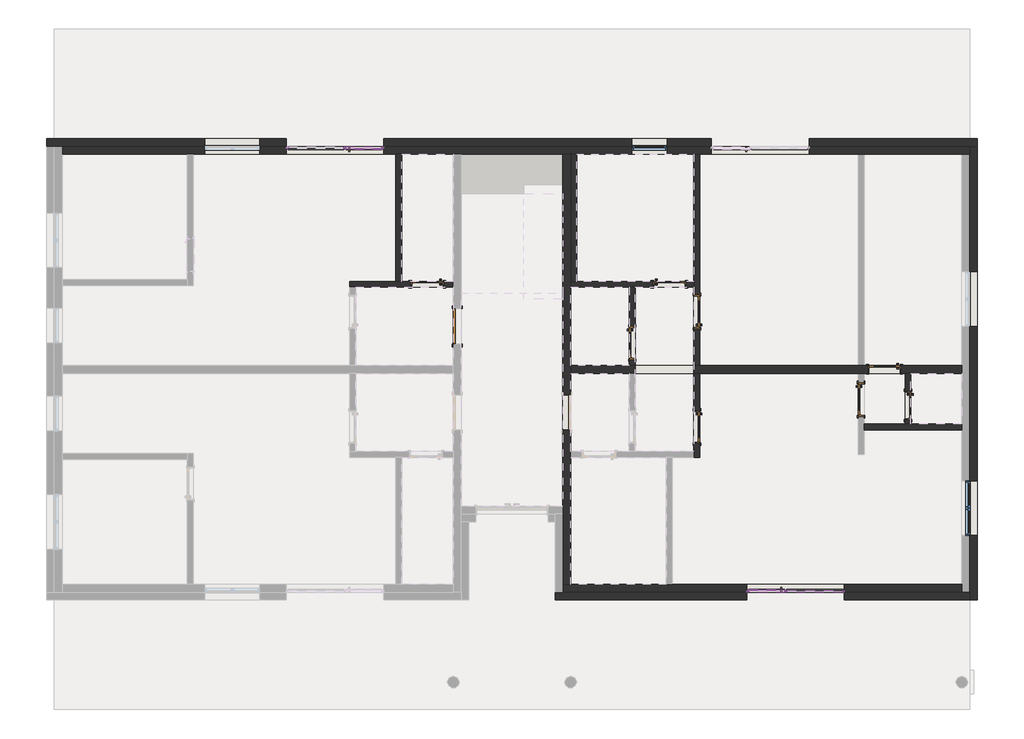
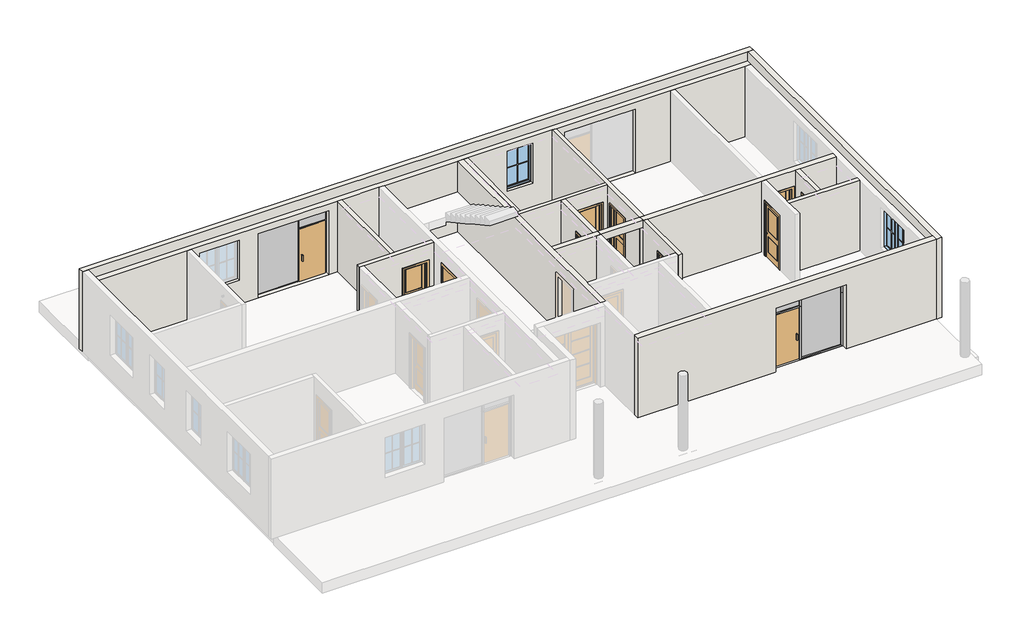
# One storey, part 2 of 3: 18 members, 18 walls, 11 doors, 4 plates, 2 windows.
"""IFC4 building model written with IfcOpenShell, lengths in millimetres."""

from ifc_helpers import new_model, si_unit, frame, origin, place, context, project, spatial, polyline, outline, extrude, faceted_brep, transform, mapped, element, save
from components import door_ff0059c9, door_700_x_2000mm_35cf3881, door_800_x_2000mm_7a4eaae7, door_800_x_2000mm_50fb24a1, door_800_x_2000mm_7f741745, door_900_x_2100mm_4fa88ec2, member_50x50_mm_0b25df5f, member_50x50_mm_3bf2a5da, member_50x50_mm_d57dae31, member_50x50_mm_7f53e2b4, member_50x50_mm_58209b6d, member_50x50_mm_0f4eb3cd, member_50x50_mm_521fa47b, plate_240b6e4f, plate_5e06e8b0, window_1400_x_1500mm_e7e683e0, window_900_x_1500mm_994527e6

model = new_model("IFC4")

# Units and contexts
model_context = context("Model", 3, world=origin())
ifc_project = project(units=[si_unit("LENGTHUNIT", "METRE", prefix="MILLI")], contexts=[model_context])

# Site, building, storey
site = spatial("IfcSite", under=ifc_project)
building = spatial("IfcBuilding", under=site)
storey = spatial("IfcBuildingStorey", under=building, Name="Podlaží 1", Elevation=0.0)

# Doors
placement = place(None, origin())
door_shape = door_ff0059c9(model_context)
element("IfcDoor", 1, ObjectType="M_Dveře, obvodový plášť, jednoduché zasklení : M_Dveře, obvodový plášť, jednoduché zasklení", at=placement, inside=storey, context=model_context, shape_type="MappedRepresentation", body=[
    mapped(door_shape, transform((18012.5, 2325.0, 0.0), x_axis=(-1.0, 0.0, 0.0), y_axis=(0.0, -1.0, 0.0), z_axis=(0.0, 0.0, 1.0))),
])
element("IfcDoor", 2, ObjectType="M_Dveře, obvodový plášť, jednoduché zasklení : M_Dveře, obvodový plášť, jednoduché zasklení", at=placement, inside=storey, context=model_context, shape_type="MappedRepresentation", body=[
    mapped(door_shape, transform((7712.5, 13675.0, 0.0), x_axis=(1.0, 0.0, 0.0), y_axis=(0.0, 1.0, 0.0), z_axis=(0.0, 0.0, 1.0))),
])
door_700_x_2000mm_shape = door_700_x_2000mm_35cf3881(model_context)
element("IfcDoor", 3, ObjectType="M_Dveře, vnitřní, jednokřídlé, dvě části, panel, dřevo : 700 x 2000mm", at=placement, inside=storey, context=model_context, shape_type="MappedRepresentation", body=[
    mapped(door_700_x_2000mm_shape, transform((21628.175, 7075.0, 0.0), x_axis=(0.0, -1.0, 0.0), y_axis=(1.0, 0.0, 0.0), z_axis=(0.0, 0.0, 1.0))),
])
door_800_x_2000mm_shape = door_800_x_2000mm_7a4eaae7(model_context)
element("IfcDoor", 4, ObjectType="M_Dveře, vnitřní, jednokřídlé, dvě části, panel, dřevo : 800 x 2000mm", at=placement, inside=storey, context=model_context, shape_type="MappedRepresentation", body=[
    mapped(door_800_x_2000mm_shape, transform((9337.5, 10178.175, 0.0), x_axis=(-1.0, 0.0, 0.0), y_axis=(0.0, -1.0, 0.0), z_axis=(0.0, 0.0, 1.0))),
])
element("IfcDoor", 5, ObjectType="M_Dveře, vnitřní, jednokřídlé, dvě části, panel, dřevo : 800 x 2000mm", at=placement, inside=storey, context=model_context, shape_type="MappedRepresentation", body=[
    mapped(door_800_x_2000mm_shape, transform((14571.825, 8675.0, 0.0), x_axis=(0.0, -1.0, 0.0), y_axis=(1.0, 0.0, 0.0), z_axis=(0.0, 0.0, 1.0))),
])
element("IfcDoor", 6, ObjectType="M_Dveře, vnitřní, jednokřídlé, dvě části, panel, dřevo : 800 x 2000mm", at=placement, inside=storey, context=model_context, shape_type="MappedRepresentation", body=[
    mapped(door_800_x_2000mm_shape, transform((16228.175, 9475.0, 0.0), x_axis=(0.0, 1.0, 0.0), y_axis=(-1.0, 0.0, 0.0), z_axis=(0.0, 0.0, 1.0))),
])
element("IfcDoor", 7, ObjectType="M_Dveře, vnitřní, jednokřídlé, dvě části, panel, dřevo : 800 x 2000mm", at=placement, inside=storey, context=model_context, shape_type="MappedRepresentation", body=[
    mapped(door_800_x_2000mm_shape, transform((20421.825, 7225.0, 0.0), x_axis=(0.0, -1.0, 0.0), y_axis=(1.0, 0.0, 0.0), z_axis=(0.0, 0.0, 1.0))),
])
door_800_x_2000mm_2_shape = door_800_x_2000mm_50fb24a1(model_context)
element("IfcDoor", 8, ObjectType="M_Dveře, vnitřní, jednokřídlé, dvě části, panel, dřevo : 800 x 2000mm", at=placement, inside=storey, context=model_context, shape_type="MappedRepresentation", body=[
    mapped(door_800_x_2000mm_2_shape, transform((15525.0, 10178.175, 0.0), x_axis=(1.0, 0.0, 0.0), y_axis=(0.0, 1.0, 0.0), z_axis=(0.0, 0.0, 1.0))),
])
element("IfcDoor", 9, ObjectType="M_Dveře, vnitřní, jednokřídlé, dvě části, panel, dřevo : 800 x 2000mm", at=placement, inside=storey, context=model_context, shape_type="MappedRepresentation", body=[
    mapped(door_800_x_2000mm_2_shape, transform((16228.175, 6525.0, 0.0), x_axis=(0.0, -1.0, 0.0), y_axis=(1.0, 0.0, 0.0), z_axis=(0.0, 0.0, 1.0))),
])
door_800_x_2000mm_3_shape = door_800_x_2000mm_7f741745(model_context)
element("IfcDoor", 10, ObjectType="M_Dveře, vnitřní, jednokřídlé, dvě části, panel, dřevo : 800 x 2000mm", at=placement, inside=storey, context=model_context, shape_type="MappedRepresentation", body=[
    mapped(door_800_x_2000mm_3_shape, transform((21025.0, 8003.175, 0.0), x_axis=(-1.0, 0.0, 0.0), y_axis=(0.0, -1.0, 0.0), z_axis=(0.0, 0.0, 1.0))),
])
door_900_x_2100mm_shape = door_900_x_2100mm_4fa88ec2(model_context)
element("IfcDoor", 11, ObjectType="M_Dveře, jednokřídlé, panel : 900 x 2100mm", at=placement, inside=storey, context=model_context, shape_type="MappedRepresentation", body=[
    mapped(door_900_x_2100mm_shape, transform((10100.0, 9100.0, 0.0), x_axis=(0.0, -1.0, 0.0), y_axis=(1.0, 0.0, 0.0), z_axis=(0.0, 0.0, 1.0))),
])

# Members
member_50x50_mm_shape = member_50x50_mm_0b25df5f(model_context)
element("IfcMember", 12, ObjectType="Obdélníková příčel : 50x50 mm", at=placement, inside=storey, context=model_context, shape_type="MappedRepresentation", body=[
    mapped(member_50x50_mm_shape, transform((19950.0, 2325.0, 2400.0), x_axis=(0.0, 0.0, 1.0), y_axis=(0.0, -1.0, 0.0), z_axis=(1.0, 0.0, 0.0))),
])
member_50x50_mm_2_shape = member_50x50_mm_3bf2a5da(model_context)
element("IfcMember", 13, ObjectType="Obdélníková příčel : 50x50 mm", at=placement, inside=storey, context=model_context, shape_type="MappedRepresentation", body=[
    mapped(member_50x50_mm_2_shape, transform((18500.0, 2325.0, 0.0), x_axis=(1.0, 0.0, 0.0), y_axis=(0.0, -1.0, 0.0), z_axis=(0.0, 0.0, -1.0))),
])
member_50x50_mm_3_shape = member_50x50_mm_d57dae31(model_context)
element("IfcMember", 14, ObjectType="Obdélníková příčel : 50x50 mm", at=placement, inside=storey, context=model_context, shape_type="MappedRepresentation", body=[
    mapped(member_50x50_mm_3_shape, transform((18475.0, 2325.0, 2000.0), x_axis=(0.0, 0.0, 1.0), y_axis=(0.0, -1.0, 0.0), z_axis=(1.0, 0.0, 0.0))),
])
element("IfcMember", 15, ObjectType="Obdélníková příčel : 50x50 mm", at=placement, inside=storey, context=model_context, shape_type="MappedRepresentation", body=[
    mapped(member_50x50_mm_shape, transform((18525.0, 2325.0, 0.0), x_axis=(0.0, 0.0, -1.0), y_axis=(0.0, -1.0, 0.0), z_axis=(-1.0, 0.0, 0.0))),
])
member_50x50_mm_4_shape = member_50x50_mm_7f53e2b4(model_context)
element("IfcMember", 16, ObjectType="Obdélníková příčel : 50x50 mm", at=placement, inside=storey, context=model_context, shape_type="MappedRepresentation", body=[
    mapped(member_50x50_mm_4_shape, transform((18475.0, 2325.0, 2400.0), x_axis=(0.0, 0.0, 1.0), y_axis=(0.0, -1.0, 0.0), z_axis=(1.0, 0.0, 0.0))),
])
member_50x50_mm_5_shape = member_50x50_mm_58209b6d(model_context)
element("IfcMember", 17, ObjectType="Obdélníková příčel : 50x50 mm", at=placement, inside=storey, context=model_context, shape_type="MappedRepresentation", body=[
    mapped(member_50x50_mm_5_shape, transform((18500.0, 2325.0, 2000.0), x_axis=(1.0, 0.0, 0.0), y_axis=(0.0, -1.0, 0.0), z_axis=(0.0, 0.0, -1.0))),
])
member_50x50_mm_6_shape = member_50x50_mm_0f4eb3cd(model_context)
element("IfcMember", 18, ObjectType="Obdélníková příčel : 50x50 mm", at=placement, inside=storey, context=model_context, shape_type="MappedRepresentation", body=[
    mapped(member_50x50_mm_6_shape, transform((17500.0, 2325.0, 2400.0), x_axis=(-1.0, 0.0, 0.0), y_axis=(0.0, -1.0, 0.0), z_axis=(0.0, 0.0, 1.0))),
])
member_50x50_mm_7_shape = member_50x50_mm_521fa47b(model_context)
element("IfcMember", 19, ObjectType="Obdélníková příčel : 50x50 mm", at=placement, inside=storey, context=model_context, shape_type="MappedRepresentation", body=[
    mapped(member_50x50_mm_7_shape, transform((20000.0, 2325.0, 0.0), x_axis=(1.0, 0.0, 0.0), y_axis=(0.0, -1.0, 0.0), z_axis=(0.0, 0.0, -1.0))),
])
element("IfcMember", 20, ObjectType="Obdélníková příčel : 50x50 mm", at=placement, inside=storey, context=model_context, shape_type="MappedRepresentation", body=[
    mapped(member_50x50_mm_6_shape, transform((20000.0, 2325.0, 2000.0), x_axis=(1.0, 0.0, 0.0), y_axis=(0.0, -1.0, 0.0), z_axis=(0.0, 0.0, -1.0))),
])
element("IfcMember", 21, ObjectType="Obdélníková příčel : 50x50 mm", at=placement, inside=storey, context=model_context, shape_type="MappedRepresentation", body=[
    mapped(member_50x50_mm_7_shape, transform((17500.0, 2325.0, 2000.0), x_axis=(-1.0, 0.0, 0.0), y_axis=(0.0, -1.0, 0.0), z_axis=(0.0, 0.0, 1.0))),
])
element("IfcMember", 22, ObjectType="Obdélníková příčel : 50x50 mm", at=placement, inside=storey, context=model_context, shape_type="MappedRepresentation", body=[
    mapped(member_50x50_mm_2_shape, transform((7225.0, 13675.0, 0.0), x_axis=(-1.0, 0.0, 0.0), y_axis=(0.0, 1.0, 0.0), z_axis=(0.0, 0.0, -1.0))),
])
element("IfcMember", 23, ObjectType="Obdélníková příčel : 50x50 mm", at=placement, inside=storey, context=model_context, shape_type="MappedRepresentation", body=[
    mapped(member_50x50_mm_3_shape, transform((7250.0, 13675.0, 2000.0), x_axis=(0.0, 0.0, 1.0), y_axis=(0.0, 1.0, 0.0), z_axis=(-1.0, 0.0, 0.0))),
])
element("IfcMember", 24, ObjectType="Obdélníková příčel : 50x50 mm", at=placement, inside=storey, context=model_context, shape_type="MappedRepresentation", body=[
    mapped(member_50x50_mm_shape, transform((7200.0, 13675.0, 0.0), x_axis=(0.0, 0.0, -1.0), y_axis=(0.0, 1.0, 0.0), z_axis=(1.0, 0.0, 0.0))),
])
element("IfcMember", 25, ObjectType="Obdélníková příčel : 50x50 mm", at=placement, inside=storey, context=model_context, shape_type="MappedRepresentation", body=[
    mapped(member_50x50_mm_4_shape, transform((7250.0, 13675.0, 2400.0), x_axis=(0.0, 0.0, 1.0), y_axis=(0.0, 1.0, 0.0), z_axis=(-1.0, 0.0, 0.0))),
])
element("IfcMember", 26, ObjectType="Obdélníková příčel : 50x50 mm", at=placement, inside=storey, context=model_context, shape_type="MappedRepresentation", body=[
    mapped(member_50x50_mm_5_shape, transform((7225.0, 13675.0, 2000.0), x_axis=(-1.0, 0.0, 0.0), y_axis=(0.0, 1.0, 0.0), z_axis=(0.0, 0.0, -1.0))),
])
element("IfcMember", 27, ObjectType="Obdélníková příčel : 50x50 mm", at=placement, inside=storey, context=model_context, shape_type="MappedRepresentation", body=[
    mapped(member_50x50_mm_6_shape, transform((8225.0, 13675.0, 2400.0), x_axis=(1.0, 0.0, 0.0), y_axis=(0.0, 1.0, 0.0), z_axis=(0.0, 0.0, 1.0))),
])
element("IfcMember", 28, ObjectType="Obdélníková příčel : 50x50 mm", at=placement, inside=storey, context=model_context, shape_type="MappedRepresentation", body=[
    mapped(member_50x50_mm_6_shape, transform((5725.0, 13675.0, 2000.0), x_axis=(-1.0, 0.0, 0.0), y_axis=(0.0, 1.0, 0.0), z_axis=(0.0, 0.0, -1.0))),
])
element("IfcMember", 29, ObjectType="Obdélníková příčel : 50x50 mm", at=placement, inside=storey, context=model_context, shape_type="MappedRepresentation", body=[
    mapped(member_50x50_mm_7_shape, transform((8225.0, 13675.0, 2000.0), x_axis=(1.0, 0.0, 0.0), y_axis=(0.0, 1.0, 0.0), z_axis=(0.0, 0.0, 1.0))),
])

# Plates
plate_shape = plate_240b6e4f(model_context)
element("IfcPlate", 30, ObjectType="Systémový panel : Zasklené", at=placement, inside=storey, context=model_context, shape_type="MappedRepresentation", body=[
    mapped(plate_shape, transform((19237.5, 2325.0, 50.0), x_axis=(1.0, 0.0, 0.0), y_axis=(0.0, 1.0, 0.0), z_axis=(0.0, 0.0, 1.0))),
])
element("IfcPlate", 31, ObjectType="Systémový panel : Zasklené", at=placement, inside=storey, context=model_context, shape_type="MappedRepresentation", body=[
    mapped(plate_shape, transform((6487.5, 13675.0, 50.0), x_axis=(-1.0, 0.0, 0.0), y_axis=(0.0, -1.0, 0.0), z_axis=(0.0, 0.0, 1.0))),
])
plate_2_shape = plate_5e06e8b0(model_context)
element("IfcPlate", 32, ObjectType="Systémový panel : Zasklené", at=placement, inside=storey, context=model_context, shape_type="MappedRepresentation", body=[
    mapped(plate_2_shape, transform((18012.5, 2325.0, 2025.0), x_axis=(1.0, 0.0, 0.0), y_axis=(0.0, 1.0, 0.0), z_axis=(0.0, 0.0, 1.0))),
])
element("IfcPlate", 33, ObjectType="Systémový panel : Zasklené", at=placement, inside=storey, context=model_context, shape_type="MappedRepresentation", body=[
    mapped(plate_2_shape, transform((7712.5, 13675.0, 2025.0), x_axis=(-1.0, 0.0, 0.0), y_axis=(0.0, -1.0, 0.0), z_axis=(0.0, 0.0, 1.0))),
])

# Walls
element("IfcWall", 34, ObjectType="Železobeton 200 mm", at=placement, inside=storey, context=model_context, shape_type="Brep", body=[
    faceted_brep([(0.0, 13500.0, -150.0), (3200.0, 13500.0, -150.0), (3350.0, 13500.0, -150.0), (8525.0, 13500.0, -150.0), (8675.0, 13500.0, -150.0), (10000.0, 13500.0, -150.0), (10200.0, 13500.0, -150.0), (12800.0, 13500.0, -150.0), (13000.0, 13500.0, -150.0), (13150.0, 13500.0, -150.0), (16150.0, 13500.0, -150.0), (16300.0, 13500.0, -150.0), (20350.0, 13500.0, -150.0), (20500.0, 13500.0, -150.0), (23000.0, 13500.0, -150.0), (23200.0, 13500.0, -150.0), (23200.0, 13500.0, 2650.0), (23000.0, 13500.0, 2650.0), (20500.0, 13500.0, 2650.0), (20350.0, 13500.0, 2650.0), (16300.0, 13500.0, 2650.0), (16150.0, 13500.0, 2650.0), (13150.0, 13500.0, 2650.0), (13000.0, 13500.0, 2650.0), (12800.0, 13500.0, 2650.0), (10200.0, 13500.0, 2650.0), (10000.0, 13500.0, 2650.0), (8675.0, 13500.0, 2650.0), (8525.0, 13500.0, 2650.0), (3350.0, 13500.0, 2650.0), (3200.0, 13500.0, 2650.0), (0.0, 13500.0, 2650.0), (3650.0, 13500.0, 900.0), (3650.0, 13500.0, 2400.0), (5050.0, 13500.0, 2400.0), (5050.0, 13500.0, 900.0), (16600.0, 13500.0, 0.0), (16600.0, 13500.0, 2400.0), (19100.0, 13500.0, 2400.0), (19100.0, 13500.0, 0.0), (8225.0, 13500.0, 2400.0), (8225.0, 13500.0, 0.0), (5725.0, 13500.0, 0.0), (5725.0, 13500.0, 2400.0), (15465.0, 13500.0, 2400.0), (15465.0, 13500.0, 900.0), (14565.0, 13500.0, 900.0), (14565.0, 13500.0, 2400.0), (23200.0, 13700.0, -150.0), (0.0, 13700.0, -150.0), (0.0, 13700.0, 2650.0), (23200.0, 13700.0, 2650.0), (23200.0, 13700.0, 0.0), (3650.0, 13700.0, 2400.0), (3650.0, 13700.0, 900.0), (5050.0, 13700.0, 900.0), (5050.0, 13700.0, 2400.0), (16600.0, 13700.0, 2400.0), (16600.0, 13700.0, 0.0), (19100.0, 13700.0, 0.0), (19100.0, 13700.0, 2400.0), (8225.0, 13700.0, 0.0), (8225.0, 13700.0, 2400.0), (5725.0, 13700.0, 2400.0), (5725.0, 13700.0, 0.0), (15465.0, 13700.0, 2400.0), (14565.0, 13700.0, 2400.0), (14565.0, 13700.0, 900.0), (15465.0, 13700.0, 900.0)], [[[0, 1, 2, 3, 4, 5, 6, 7, 8, 9, 10, 11, 12, 13, 14, 15, 16, 17, 18, 19, 20, 21, 22, 23, 24, 25, 26, 27, 28, 29, 30, 31], [32, 33, 34, 35], [36, 37, 38, 39], [40, 41, 42, 43], [44, 45, 46, 47]], [[48, 49, 50, 51, 52], [53, 54, 55, 56], [57, 58, 59, 60], [61, 62, 63, 64], [65, 66, 67, 68]], [[15, 14, 13, 12, 11, 10, 9, 8, 7, 6, 5, 4, 3, 2, 1, 0, 49, 48]], [[31, 30, 29, 28, 27, 26, 25, 24, 23, 22, 21, 20, 19, 18, 17, 16, 51, 50]], [[54, 53, 33, 32]], [[55, 54, 32, 35]], [[56, 55, 35, 34]], [[53, 56, 34, 33]], [[36, 58, 57, 37]], [[37, 57, 60, 38]], [[59, 39, 38, 60]], [[58, 36, 39, 59]], [[61, 41, 40, 62]], [[62, 40, 43, 63]], [[63, 43, 42, 64]], [[41, 61, 64, 42]], [[45, 44, 65, 68]], [[46, 45, 68, 67]], [[47, 46, 67, 66]], [[44, 47, 66, 65]], [[49, 0, 31, 50]], [[15, 48, 52, 51, 16]]]),
])
element("IfcWall", 35, ObjectType="Železobeton 200 mm", at=placement, inside=storey, context=model_context, shape_type="Brep", body=[
    faceted_brep([(23000.0, 2500.0, -150.0), (15600.0, 2500.0, -150.0), (15450.0, 2500.0, -150.0), (13000.0, 2500.0, -150.0), (12800.0, 2500.0, -150.0), (12800.0, 2500.0, 2650.0), (13000.0, 2500.0, 2650.0), (15450.0, 2500.0, 2650.0), (15600.0, 2500.0, 2650.0), (23000.0, 2500.0, 2650.0), (17500.0, 2500.0, 2400.0), (17500.0, 2500.0, 0.0), (20000.0, 2500.0, 0.0), (20000.0, 2500.0, 2400.0), (12800.0, 2300.0, -150.0), (23000.0, 2300.0, -150.0), (23000.0, 2300.0, 2650.0), (12800.0, 2300.0, 2650.0), (12800.0, 2300.0, 0.0), (17500.0, 2300.0, 0.0), (17500.0, 2300.0, 2400.0), (20000.0, 2300.0, 2400.0), (20000.0, 2300.0, 0.0)], [[[0, 1, 2, 3, 4, 5, 6, 7, 8, 9], [10, 11, 12, 13]], [[14, 15, 16, 17, 18], [19, 20, 21, 22]], [[4, 3, 2, 1, 0, 15, 14]], [[9, 8, 7, 6, 5, 17, 16]], [[5, 4, 14, 18, 17]], [[19, 11, 10, 20]], [[20, 10, 13, 21]], [[21, 13, 12, 22]], [[11, 19, 22, 12]], [[15, 0, 9, 16]]]),
])
element("IfcWall", 36, ObjectType="Železobeton 200 mm", at=placement, inside=storey, context=model_context, shape_type="Brep", body=[
    faceted_brep([(13000.0, 2500.0, -150.0), (13000.0, 5750.0, -150.0), (13000.0, 5900.0, -150.0), (13000.0, 7900.0, -150.0), (13000.0, 8100.0, -150.0), (13000.0, 10100.0, -150.0), (13000.0, 10250.0, -150.0), (13000.0, 13500.0, -150.0), (13000.0, 13500.0, 2650.0), (13000.0, 10250.0, 2650.0), (13000.0, 10100.0, 2650.0), (13000.0, 8100.0, 2650.0), (13000.0, 7900.0, 2650.0), (13000.0, 5900.0, 2650.0), (13000.0, 5750.0, 2650.0), (13000.0, 2500.0, 2650.0), (13000.0, 6450.0, 0.0), (13000.0, 6450.0, 2100.0), (13000.0, 7350.0, 2100.0), (13000.0, 7350.0, 0.0), (12800.0, 2500.0, -150.0), (12800.0, 2500.0, 2650.0), (12800.0, 4300.0, 2650.0), (12800.0, 4500.0, 2650.0), (12800.0, 13500.0, 2650.0), (12800.0, 13500.0, -150.0), (12800.0, 4500.0, -150.0), (12800.0, 4300.0, -150.0), (12800.0, 6450.0, 0.0), (12800.0, 7350.0, 0.0), (12800.0, 7350.0, 2100.0), (12800.0, 6450.0, 2100.0)], [[[0, 1, 2, 3, 4, 5, 6, 7, 8, 9, 10, 11, 12, 13, 14, 15], [16, 17, 18, 19]], [[20, 21, 22, 23, 24, 25, 26, 27], [28, 29, 30, 31]], [[7, 6, 5, 4, 3, 2, 1, 0, 20, 27, 26, 25]], [[15, 14, 13, 12, 11, 10, 9, 8, 24, 23, 22, 21]], [[0, 15, 21, 20]], [[8, 7, 25, 24]], [[29, 28, 16, 19]], [[30, 29, 19, 18]], [[31, 30, 18, 17]], [[28, 31, 17, 16]]]),
])
element("IfcWall", 37, ObjectType="Železobeton 200 mm", at=placement, inside=storey, context=model_context, shape_type="Brep", body=[
    faceted_brep([(13000.0, 7900.0, -150.0), (14500.0, 7900.0, -150.0), (14650.0, 7900.0, -150.0), (14650.0, 7900.0, 0.0), (14650.0, 7900.0, 2400.0), (14650.0, 7900.0, 2650.0), (14500.0, 7900.0, 2650.0), (13000.0, 7900.0, 2650.0), (13000.0, 8100.0, -150.0), (13000.0, 8100.0, 2650.0), (14500.0, 8100.0, 2650.0), (14650.0, 8100.0, 2650.0), (14650.0, 8100.0, 2400.0), (14650.0, 8100.0, 0.0), (14650.0, 8100.0, -150.0), (14500.0, 8100.0, -150.0)], [[[0, 1, 2, 3, 4, 5, 6, 7]], [[8, 9, 10, 11, 12, 13, 14, 15]], [[2, 1, 0, 8, 15, 14]], [[7, 6, 5, 11, 10, 9]], [[0, 7, 9, 8]], [[5, 4, 3, 2, 14, 13, 12, 11]]]),
])
element("IfcWall", 38, ObjectType="Obecné, 150mm cihla", at=placement, inside=storey, context=model_context, shape_type="Brep", body=[
    faceted_brep([(10000.0, 10250.0, -150.0), (8675.0, 10250.0, -150.0), (8525.0, 10250.0, -150.0), (7350.0, 10250.0, -150.0), (7350.0, 10250.0, 2650.0), (8525.0, 10250.0, 2650.0), (8675.0, 10250.0, 2650.0), (10000.0, 10250.0, 2650.0), (8912.5, 10250.0, 2025.0), (8912.5, 10250.0, 0.0), (9762.5, 10250.0, 0.0), (9762.5, 10250.0, 2025.0), (7350.0, 10100.0, -150.0), (7500.0, 10100.0, -150.0), (10000.0, 10100.0, -150.0), (10000.0, 10100.0, 2650.0), (7500.0, 10100.0, 2650.0), (7350.0, 10100.0, 2650.0), (8912.5, 10100.0, 0.0), (8912.5, 10100.0, 2025.0), (9762.5, 10100.0, 2025.0), (9762.5, 10100.0, 0.0)], [[[0, 1, 2, 3, 4, 5, 6, 7], [8, 9, 10, 11]], [[12, 13, 14, 15, 16, 17], [18, 19, 20, 21]], [[3, 2, 1, 0, 14, 13, 12]], [[7, 6, 5, 4, 17, 16, 15]], [[0, 7, 15, 14]], [[4, 3, 12, 17]], [[18, 9, 8, 19]], [[19, 8, 11, 20]], [[20, 11, 10, 21]], [[9, 18, 21, 10]]]),
])
element("IfcWall", 39, ObjectType="Obecné, 150mm cihla", at=placement, inside=storey, context=model_context, shape_type="SweptSolid", body=[
    extrude(outline(polyline([(8675.0, 13500.0), (8675.0, 10250.0), (8525.0, 10250.0), (8525.0, 13500.0), (8675.0, 13500.0)])), frame((0.0, 0.0, -150.0), z_axis=(0.0, 0.0, 1.0), x_axis=(1.0, 0.0, 0.0)), (0.0, 0.0, 1.0), 2800.0),
])
element("IfcWall", 40, ObjectType="Obecné, 150mm cihla", at=placement, inside=storey, context=model_context, shape_type="Brep", body=[
    faceted_brep([(16150.0, 10250.0, -150.0), (13150.0, 10250.0, -150.0), (13000.0, 10250.0, -150.0), (13000.0, 10250.0, 2650.0), (13150.0, 10250.0, 2650.0), (16150.0, 10250.0, 2650.0), (15950.0, 10250.0, 0.0), (15950.0, 10250.0, 2025.0), (15100.0, 10250.0, 2025.0), (15100.0, 10250.0, 0.0), (13000.0, 10100.0, -150.0), (14500.0, 10100.0, -150.0), (14650.0, 10100.0, -150.0), (16150.0, 10100.0, -150.0), (16150.0, 10100.0, 2650.0), (14650.0, 10100.0, 2650.0), (14500.0, 10100.0, 2650.0), (13000.0, 10100.0, 2650.0), (15950.0, 10100.0, 2025.0), (15950.0, 10100.0, 0.0), (15100.0, 10100.0, 0.0), (15100.0, 10100.0, 2025.0)], [[[0, 1, 2, 3, 4, 5], [6, 7, 8, 9]], [[10, 11, 12, 13, 14, 15, 16, 17], [18, 19, 20, 21]], [[2, 1, 0, 13, 12, 11, 10]], [[5, 4, 3, 17, 16, 15, 14]], [[3, 2, 10, 17]], [[6, 19, 18, 7]], [[7, 18, 21, 8]], [[8, 21, 20, 9]], [[19, 6, 9, 20]], [[0, 5, 14, 13]]]),
])
element("IfcWall", 41, ObjectType="Obecné, 150mm cihla", at=placement, inside=storey, context=model_context, shape_type="Brep", body=[
    faceted_brep([(16300.0, 5750.0, -150.0), (16300.0, 7900.0, -150.0), (16300.0, 7900.0, 2650.0), (16300.0, 5750.0, 2650.0), (16300.0, 6100.0, 0.0), (16300.0, 6100.0, 2025.0), (16300.0, 6950.0, 2025.0), (16300.0, 6950.0, 0.0), (16150.0, 7900.0, -150.0), (16150.0, 5900.0, -150.0), (16150.0, 5750.0, -150.0), (16150.0, 5750.0, 2650.0), (16150.0, 5900.0, 2650.0), (16150.0, 7900.0, 2650.0), (16150.0, 6100.0, 2025.0), (16150.0, 6100.0, 0.0), (16150.0, 6950.0, 0.0), (16150.0, 6950.0, 2025.0)], [[[0, 1, 2, 3], [4, 5, 6, 7]], [[8, 9, 10, 11, 12, 13], [14, 15, 16, 17]], [[1, 0, 10, 9, 8]], [[3, 2, 13, 12, 11]], [[0, 3, 11, 10]], [[4, 15, 14, 5]], [[5, 14, 17, 6]], [[6, 17, 16, 7]], [[15, 4, 7, 16]], [[2, 1, 8, 13]]]),
])
element("IfcWall", 42, ObjectType="Obecné, 150mm cihla", at=placement, inside=storey, context=model_context, shape_type="Brep", body=[
    faceted_brep([(20500.0, 6450.0, -150.0), (23000.0, 6450.0, -150.0), (23000.0, 6450.0, 2650.0), (20500.0, 6450.0, 2650.0), (20500.0, 6600.0, -150.0), (20500.0, 6600.0, 2650.0), (21550.0, 6600.0, 2650.0), (21700.0, 6600.0, 2650.0), (23000.0, 6600.0, 2650.0), (23000.0, 6600.0, -150.0), (21700.0, 6600.0, -150.0), (21550.0, 6600.0, -150.0)], [[[0, 1, 2, 3]], [[4, 5, 6, 7, 8, 9, 10, 11]], [[1, 0, 4, 11, 10, 9]], [[3, 2, 8, 7, 6, 5]], [[2, 1, 9, 8]], [[0, 3, 5, 4]]]),
])
element("IfcWall", 43, ObjectType="Obecné, 150mm cihla", at=placement, inside=storey, context=model_context, shape_type="SweptSolid", body=[
    extrude(outline(polyline([(7900.0, -150.0), (6600.0, -150.0), (6600.0, 2650.0), (7900.0, 2650.0), (7900.0, -150.0)]), holes=[polyline([(6700.0, 2025.0), (6700.0, 0.0), (7450.0, 0.0), (7450.0, 2025.0), (6700.0, 2025.0)])]), frame((21550.0, 0.0, 0.0), z_axis=(1.0, 0.0, 0.0), x_axis=(0.0, 1.0, 0.0)), (0.0, 0.0, 1.0), 150.0),
])
element("IfcWall", 44, ObjectType="Železobeton 200 mm", at=placement, inside=storey, context=model_context, shape_type="Brep", body=[
    faceted_brep([(16150.0, 7900.0, -150.0), (16300.0, 7900.0, -150.0), (20350.0, 7900.0, -150.0), (20500.0, 7900.0, -150.0), (21550.0, 7900.0, -150.0), (21700.0, 7900.0, -150.0), (23000.0, 7900.0, -150.0), (23000.0, 7900.0, 2650.0), (21700.0, 7900.0, 2650.0), (21550.0, 7900.0, 2650.0), (20500.0, 7900.0, 2650.0), (20350.0, 7900.0, 2650.0), (16300.0, 7900.0, 2650.0), (16150.0, 7900.0, 2650.0), (16150.0, 7900.0, 2400.0), (16150.0, 7900.0, 0.0), (20600.0, 7900.0, 0.0), (20600.0, 7900.0, 2025.0), (21450.0, 7900.0, 2025.0), (21450.0, 7900.0, 0.0), (16150.0, 8100.0, -150.0), (16150.0, 8100.0, 0.0), (16150.0, 8100.0, 2400.0), (16150.0, 8100.0, 2650.0), (16300.0, 8100.0, 2650.0), (20350.0, 8100.0, 2650.0), (20500.0, 8100.0, 2650.0), (23000.0, 8100.0, 2650.0), (23000.0, 8100.0, -150.0), (20500.0, 8100.0, -150.0), (20350.0, 8100.0, -150.0), (16300.0, 8100.0, -150.0), (20600.0, 8100.0, 0.0), (21450.0, 8100.0, 0.0), (21450.0, 8100.0, 2025.0), (20600.0, 8100.0, 2025.0)], [[[0, 1, 2, 3, 4, 5, 6, 7, 8, 9, 10, 11, 12, 13, 14, 15], [16, 17, 18, 19]], [[20, 21, 22, 23, 24, 25, 26, 27, 28, 29, 30, 31], [32, 33, 34, 35]], [[6, 5, 4, 3, 2, 1, 0, 20, 31, 30, 29, 28]], [[13, 12, 11, 10, 9, 8, 7, 27, 26, 25, 24, 23]], [[7, 6, 28, 27]], [[16, 19, 33, 32]], [[19, 18, 34, 33]], [[18, 17, 35, 34]], [[17, 16, 32, 35]], [[0, 15, 14, 13, 23, 22, 21, 20]]]),
])
element("IfcWall", 45, ObjectType="Železobeton 200 mm", at=placement, inside=storey, context=model_context, shape_type="SweptSolid", body=[
    extrude(outline(polyline([(16150.0, 7900.0), (14650.0, 7900.0), (14650.0, 8100.0), (16150.0, 8100.0), (16150.0, 7900.0)])), frame((0.0, 0.0, -150.0), z_axis=(0.0, 0.0, 1.0), x_axis=(1.0, 0.0, 0.0)), (0.0, 0.0, 1.0), 150.0),
    extrude(outline(polyline([(16150.0, 7900.0), (14650.0, 7900.0), (14650.0, 8100.0), (16150.0, 8100.0), (16150.0, 7900.0)])), frame((0.0, 0.0, 2400.0), z_axis=(0.0, 0.0, 1.0), x_axis=(1.0, 0.0, 0.0)), (0.0, 0.0, 1.0), 250.0),
])
element("IfcWall", 46, ObjectType="Obecné, 150mm cihla", at=placement, inside=storey, context=model_context, shape_type="Brep", body=[
    faceted_brep([(16300.0, 8100.0, -150.0), (16300.0, 13500.0, -150.0), (16300.0, 13500.0, 2650.0), (16300.0, 8100.0, 2650.0), (16300.0, 9900.0, 0.0), (16300.0, 9050.0, 0.0), (16300.0, 9050.0, 2025.0), (16300.0, 9900.0, 2025.0), (16150.0, 8100.0, -150.0), (16150.0, 8100.0, 2650.0), (16150.0, 10100.0, 2650.0), (16150.0, 10250.0, 2650.0), (16150.0, 13500.0, 2650.0), (16150.0, 13500.0, -150.0), (16150.0, 10250.0, -150.0), (16150.0, 10100.0, -150.0), (16150.0, 9900.0, 0.0), (16150.0, 9900.0, 2025.0), (16150.0, 9050.0, 2025.0), (16150.0, 9050.0, 0.0)], [[[0, 1, 2, 3], [4, 5, 6, 7]], [[8, 9, 10, 11, 12, 13, 14, 15], [16, 17, 18, 19]], [[1, 0, 8, 15, 14, 13]], [[3, 2, 12, 11, 10, 9]], [[2, 1, 13, 12]], [[16, 19, 5, 4]], [[19, 18, 6, 5]], [[18, 17, 7, 6]], [[17, 16, 4, 7]], [[0, 3, 9, 8]]]),
])
element("IfcWall", 47, ObjectType="Obecné, 150mm cihla", at=placement, inside=storey, context=model_context, shape_type="SweptSolid", body=[
    extrude(outline(polyline([(8100.0, -150.0), (8100.0, 2650.0), (10100.0, 2650.0), (10100.0, -150.0), (8100.0, -150.0)]), holes=[polyline([(8250.0, 0.0), (9100.0, 0.0), (9100.0, 2025.0), (8250.0, 2025.0), (8250.0, 0.0)])]), frame((14500.0, 0.0, 0.0), z_axis=(1.0, 0.0, 0.0), x_axis=(0.0, 1.0, 0.0)), (0.0, 0.0, 1.0), 150.0),
])
element("IfcWall", 48, ObjectType="SDK predstena 150 mm", at=placement, inside=storey, context=model_context, shape_type="SweptSolid", body=[
    extrude(outline(polyline([(13150.0, 13500.0), (13150.0, 10250.0), (13000.0, 10250.0), (13000.0, 13500.0), (13150.0, 13500.0)])), frame((0.0, 0.0, -150.0), z_axis=(0.0, 0.0, 1.0), x_axis=(1.0, 0.0, 0.0)), (0.0, 0.0, 1.0), 2800.0),
])
element("IfcWall", 49, ObjectType="ETICS, 200mm", at=placement, inside=storey, context=model_context, shape_type="Brep", body=[
    faceted_brep([(23400.0, 13700.0, 3000.0), (23200.0, 13700.0, 3000.0), (-200.0, 13700.0, 3000.0), (-400.0, 13700.0, 3000.0), (-400.0, 13700.0, 0.0), (-200.0, 13700.0, 0.0), (5725.0, 13700.0, 0.0), (5725.0, 13700.0, 2400.0), (8225.0, 13700.0, 2400.0), (8225.0, 13700.0, 0.0), (16600.0, 13700.0, 0.0), (16600.0, 13700.0, 2400.0), (19100.0, 13700.0, 2400.0), (19100.0, 13700.0, 0.0), (23200.0, 13700.0, 0.0), (23400.0, 13700.0, 0.0), (3650.0, 13700.0, 2400.0), (5050.0, 13700.0, 2400.0), (5050.0, 13700.0, 900.0), (3650.0, 13700.0, 900.0), (15465.0, 13700.0, 2400.0), (15465.0, 13700.0, 900.0), (14565.0, 13700.0, 900.0), (14565.0, 13700.0, 2400.0), (-400.0, 13900.0, 3000.0), (23400.0, 13900.0, 3000.0), (23400.0, 13900.0, 0.0), (19100.0, 13900.0, 0.0), (19100.0, 13900.0, 2400.0), (16600.0, 13900.0, 2400.0), (16600.0, 13900.0, 0.0), (8225.0, 13900.0, 0.0), (8225.0, 13900.0, 2400.0), (5725.0, 13900.0, 2400.0), (5725.0, 13900.0, 0.0), (-400.0, 13900.0, 0.0), (3650.0, 13900.0, 2400.0), (3650.0, 13900.0, 900.0), (5050.0, 13900.0, 900.0), (5050.0, 13900.0, 2400.0), (15465.0, 13900.0, 2400.0), (14565.0, 13900.0, 2400.0), (14565.0, 13900.0, 900.0), (15465.0, 13900.0, 900.0)], [[[0, 1, 2, 3, 4, 5, 6, 7, 8, 9, 10, 11, 12, 13, 14, 15], [16, 17, 18, 19], [20, 21, 22, 23]], [[24, 25, 26, 27, 28, 29, 30, 31, 32, 33, 34, 35], [36, 37, 38, 39], [40, 41, 42, 43]], [[30, 10, 9, 31]], [[15, 14, 13, 27, 26]], [[4, 35, 34, 6, 5]], [[3, 2, 1, 0, 25, 24]], [[37, 36, 16, 19]], [[38, 37, 19, 18]], [[39, 38, 18, 17]], [[36, 39, 17, 16]], [[29, 11, 10, 30]], [[11, 29, 28, 12]], [[12, 28, 27, 13]], [[8, 32, 31, 9]], [[32, 8, 7, 33]], [[33, 7, 6, 34]], [[21, 20, 40, 43]], [[22, 21, 43, 42]], [[23, 22, 42, 41]], [[20, 23, 41, 40]], [[35, 4, 3, 24]], [[15, 26, 25, 0]]]),
])
element("IfcWall", 50, ObjectType="ETICS, 200mm", at=placement, inside=storey, context=model_context, shape_type="Brep", body=[
    faceted_brep([(23200.0, 13700.0, 3000.0), (23200.0, 13700.0, 2650.0), (23200.0, 13700.0, 0.0), (23200.0, 2300.0, 0.0), (23200.0, 2100.0, 0.0), (23200.0, 2100.0, 3000.0), (23200.0, 2300.0, 3000.0), (23200.0, 10500.0, 2400.0), (23200.0, 9100.0, 2400.0), (23200.0, 9100.0, 900.0), (23200.0, 10500.0, 900.0), (23200.0, 5150.0, 2400.0), (23200.0, 3750.0, 2400.0), (23200.0, 3750.0, 900.0), (23200.0, 5150.0, 900.0), (23400.0, 13700.0, 0.0), (23400.0, 13700.0, 3000.0), (23400.0, 2100.0, 3000.0), (23400.0, 2100.0, 0.0), (23400.0, 10500.0, 2400.0), (23400.0, 10500.0, 900.0), (23400.0, 9100.0, 900.0), (23400.0, 9100.0, 2400.0), (23400.0, 5150.0, 2400.0), (23400.0, 5150.0, 900.0), (23400.0, 3750.0, 900.0), (23400.0, 3750.0, 2400.0)], [[[0, 1, 2, 3, 4, 5, 6], [7, 8, 9, 10], [11, 12, 13, 14]], [[15, 16, 17, 18], [19, 20, 21, 22], [23, 24, 25, 26]], [[4, 3, 2, 15, 18]], [[0, 6, 5, 17, 16]], [[20, 19, 7, 10]], [[21, 20, 10, 9]], [[22, 21, 9, 8]], [[19, 22, 8, 7]], [[24, 23, 11, 14]], [[25, 24, 14, 13]], [[26, 25, 13, 12]], [[23, 26, 12, 11]], [[0, 16, 15, 2, 1]], [[4, 18, 17, 5]]]),
])
element("IfcWall", 51, ObjectType="ETICS, 200mm", at=placement, inside=storey, context=model_context, shape_type="Brep", body=[
    faceted_brep([(12600.0, 2300.0, 3000.0), (12800.0, 2300.0, 3000.0), (23200.0, 2300.0, 3000.0), (23200.0, 2300.0, 2650.0), (23200.0, 2300.0, 0.0), (20000.0, 2300.0, 0.0), (20000.0, 2300.0, 2400.0), (17500.0, 2300.0, 2400.0), (17500.0, 2300.0, 0.0), (12800.0, 2300.0, 0.0), (12600.0, 2300.0, 0.0), (23200.0, 2100.0, 3000.0), (12600.0, 2100.0, 3000.0), (12600.0, 2100.0, 0.0), (17500.0, 2100.0, 0.0), (17500.0, 2100.0, 2400.0), (20000.0, 2100.0, 2400.0), (20000.0, 2100.0, 0.0), (23200.0, 2100.0, 0.0)], [[[0, 1, 2, 3, 4, 5, 6, 7, 8, 9, 10]], [[11, 12, 13, 14, 15, 16, 17, 18]], [[13, 10, 9, 8, 14]], [[4, 18, 17, 5]], [[2, 1, 0, 12, 11]], [[0, 10, 13, 12]], [[7, 15, 14, 8]], [[15, 7, 6, 16]], [[16, 6, 5, 17]], [[18, 4, 3, 2, 11]]]),
])

# Windows
window_1400_x_1500mm_shape = window_1400_x_1500mm_e7e683e0(model_context)
element("IfcWindow", 52, ObjectType="M_Okno, dvoukřídlé : 1400 x 1500mm", at=placement, inside=storey, context=model_context, shape_type="MappedRepresentation", body=[
    mapped(window_1400_x_1500mm_shape, transform((23100.0, 4450.0, 0.0), x_axis=(0.0, 1.0, 0.0), y_axis=(-1.0, 0.0, 0.0), z_axis=(0.0, 0.0, 1.0))),
])
window_900_x_1500mm_shape = window_900_x_1500mm_994527e6(model_context)
element("IfcWindow", 53, ObjectType="M_Okno, křídlo, samostatné levé : 900 x 1500mm", at=placement, inside=storey, context=model_context, shape_type="MappedRepresentation", body=[
    mapped(window_900_x_1500mm_shape, transform((15015.0, 13600.0, 0.0), x_axis=(1.0, 0.0, 0.0), y_axis=(0.0, 1.0, 0.0), z_axis=(0.0, 0.0, 1.0))),
])

save(model, "model.ifc")
